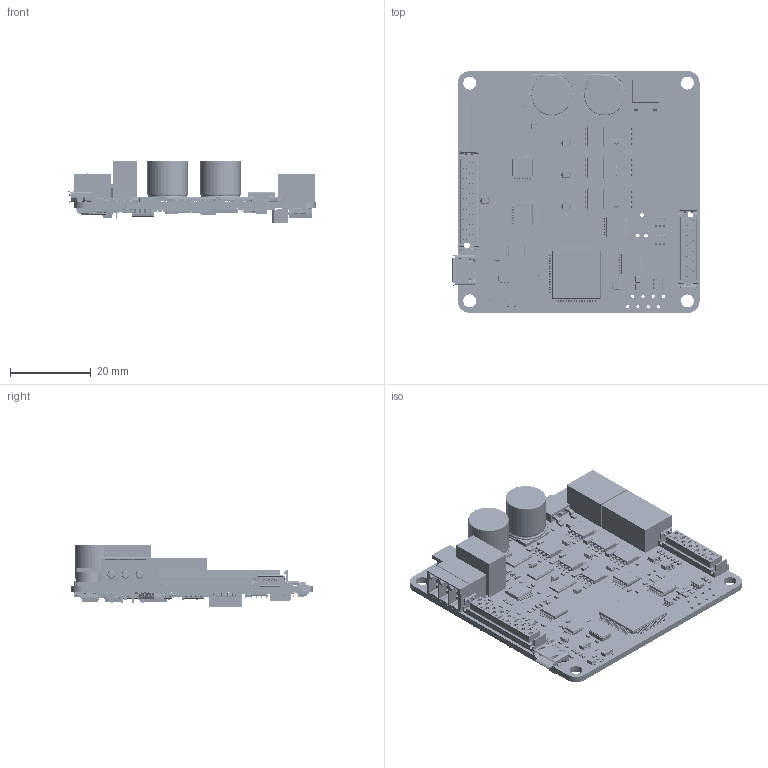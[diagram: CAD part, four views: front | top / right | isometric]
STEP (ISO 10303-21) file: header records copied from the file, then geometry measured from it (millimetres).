
FILE_DESCRIPTION(('Open CASCADE Model'),'2;1');
FILE_NAME('Open CASCADE Shape Model','2020-10-23T12:04:55',('Author'),( 'Open CASCADE'),'Open CASCADE STEP processor 6.8','Open CASCADE 6.8' ,'Unknown');
FILE_SCHEMA(('AUTOMOTIVE_DESIGN { 1 0 10303 214 1 1 1 1 }'));
Length unit declared in the file: millimetre
Products named in the file (620): PCB; Boardi021-01H1; Open CASCADE STEP translator 6.8 1.1.1; D17i021-01H1; User_Library-SOD-323; C35i021-01H1; 5949493216; Extruded; 5949492976; U31i021-01H1; 5949491456; Cylinder; 5949491216; 5949490976; C69i021-01H1; 5950241376; 5950228816; U11i021-01H1; SW3DPS-SOT-23-5-DEFAULT; C23i021-01H1; 5950758064; 5950757824; C22i021-01H1; 5950760304; 5950760064; U4i021-01H1; CUI_PDSE1-S5-S5-S; C70i021-01H1; 5950762384; 5950762944; R89i021-01H1; R_0402; R1i021-01H1; L3i021-01H1; 5950759424; 5950759104; R147i021-01H1; R170i021-01H1; R_0603; R169i021-01H1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
Assembly tree (1327 placements, depth 8):
  PCB
    Boardi021-01H1
      Open CASCADE STEP translator 6.8 1.1.1
    D17i021-01H1
      User_Library-SOD-323
    C35i021-01H1
      5949493216  x2
        Extruded
      5949492976
        Extruded
    U31i021-01H1
      5949491456
        Cylinder
      5949491216
        Extruded
      5949490976  x8
        Extruded
    C69i021-01H1
      5950241376  x2
        Extruded
      5950228816
        Extruded
    U11i021-01H1
      SW3DPS-SOT-23-5-DEFAULT
    C23i021-01H1
      5950758064  x2
        Extruded
      5950757824
        Extruded
    C22i021-01H1
      5950760304  x2
        Extruded
      5950760064
        Extruded
    U4i021-01H1
      CUI_PDSE1-S5-S5-S
    C70i021-01H1
      5950762384
        Extruded
      5950762944  x2
        Extruded
    R89i021-01H1
      R_0402
    R1i021-01H1
      R_0402
    L3i021-01H1
      5950759424  x2
        Extruded
      5950759104
        Extruded
    R147i021-01H1
      R_0402
    R170i021-01H1
      R_0603
    R169i021-01H1
      R_0603
    LAYERS1i021-01H1
      5949495936
        Sphere
    D38i021-01H1
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Bounding box: 61.3 x 60 x 15.44 mm (x, y, z)
Volume: 11650.4 mm3; surface area: 22496 mm2
Topology: 938 solids, 1693 shells, 31640 faces, 82900 edges, 54097 vertices
Faces by surface type: plane 22350, cylinder 8483, bspline 638, sphere 143, cone 20, torus 6
Full cylindrical faces by diameter (mm): 0.4 x1, 0.8 x36, 0.9 x3, 1 x4, 1.4 x10, 1.5 x2, 3 x1, 3.2 x4, 6.2 x1
Entity records: 355449 total; most frequent: CARTESIAN_POINT 64184, DIRECTION 47389, ORIENTED_EDGE 46400, EDGE_CURVE 25084, LINE 20365, VECTOR 20365, VERTEX_POINT 17542, AXIS2_PLACEMENT_3D 13512
